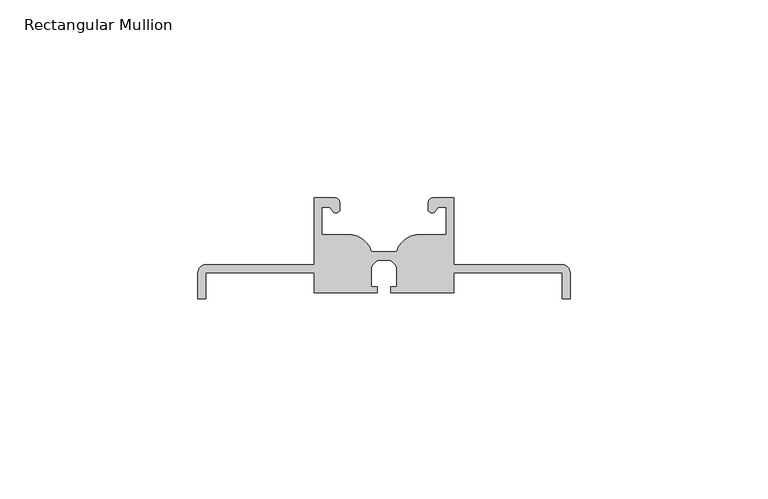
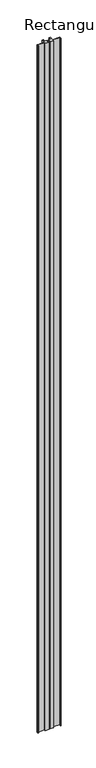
"""IFC4 building model written with IfcOpenShell, lengths in millimetres: member geometry, Rectangular Mullion : LD.0240 - right_renson."""

from ifc_helpers import new_model, si_unit, point, frame, frame_2d, origin, place, context, project, spatial, polyline, circle_curve, trimmed, segment, composite_curve, outline, extrude, source, transform, mapped, element, save


def rectangular_mullion_7ff0ea34(model_context):
    return source(origin(), model_context, "Body", "SweptSolid", [
        extrude(outline(composite_curve([segment(trimmed(circle_curve(frame_2d((-141.9912581, 7.6257936)), 2.0087419), [point((-144.0, 7.6257936))], [point((-141.9912581, 9.6345355))], False, "CARTESIAN"), True, "CONTINUOUS"), segment(polyline([(-141.9912581, 9.6345355), (-114.6599764, 9.6345355), (-114.6599764, 26.5), (-109.3468461, 26.5)]), True, "CONTINUOUS"), segment(trimmed(circle_curve(frame_2d((-109.3468461, 25.3135005)), 1.1864995), [point((-109.3468461, 26.5))], [point((-108.1603466, 25.3135005))], False, "CARTESIAN"), True, "CONTINUOUS"), segment(polyline([(-108.1603466, 25.3135005), (-108.1603466, 23.3009057)]), True, "CONTINUOUS"), segment(trimmed(circle_curve(frame_2d((-109.1227149, 23.8515635)), 1.1087726), [point((-108.1603466, 23.3009057))], [point((-109.8614271, 23.0247134))], False, "CARTESIAN"), True, "CONTINUOUS"), segment(polyline([(-109.8614271, 23.0247134), (-110.7509755, 24.1232143), (-112.6734126, 24.1232143), (-112.6734126, 17.2531745), (-105.1368198, 17.2531745)]), True, "CONTINUOUS"), segment(trimmed(circle_curve(frame_2d((-106.367927, 10.8255058)), 6.5445053), [point((-105.1368198, 17.2531745))], [point((-100.1741489, 12.9391905))], False, "CARTESIAN"), True, "CONTINUOUS"), segment(polyline([(-100.1741489, 12.9391905), (-93.8258511, 12.9391905)]), True, "CONTINUOUS"), segment(trimmed(circle_curve(frame_2d((-87.632073, 10.8255058)), 6.5445053), [point((-93.8258511, 12.9391905))], [point((-88.8631802, 17.2531745))], False, "CARTESIAN"), True, "CONTINUOUS"), segment(polyline([(-88.8631802, 17.2531745), (-81.3265874, 17.2531745), (-81.3265874, 24.1232143), (-83.2490245, 24.1232143), (-84.1385729, 23.0247134)]), True, "CONTINUOUS"), segment(trimmed(circle_curve(frame_2d((-84.8772851, 23.8515635)), 1.1087726), [point((-84.1385729, 23.0247134))], [point((-85.8396534, 23.3009057))], False, "CARTESIAN"), True, "CONTINUOUS"), segment(polyline([(-85.8396534, 23.3009057), (-85.8396534, 25.3135005)]), True, "CONTINUOUS"), segment(trimmed(circle_curve(frame_2d((-84.6531539, 25.3135005)), 1.1864995), [point((-85.8396534, 25.3135005))], [point((-84.6531539, 26.5))], False, "CARTESIAN"), True, "CONTINUOUS"), segment(polyline([(-84.6531539, 26.5), (-79.3400236, 26.5), (-79.3400236, 9.6345355), (-52.0087419, 9.6345355)]), True, "CONTINUOUS"), segment(trimmed(circle_curve(frame_2d((-52.0087419, 7.6257936)), 2.0087419), [point((-52.0087419, 9.6345355))], [point((-50.0, 7.6257936))], False, "CARTESIAN"), True, "CONTINUOUS"), segment(polyline([(-50.0, 7.6257936), (-50.0, 1.0), (-52.0087419, 1.0), (-52.0087419, 7.611542), (-79.3400236, 7.611542), (-79.3400236, 2.5065082), (-95.3054808, 2.5065082), (-95.3054808, 4.0065082), (-93.8258511, 4.0065082), (-93.8258511, 9.0065082)]), True, "CONTINUOUS"), segment(trimmed(circle_curve(frame_2d((-96.9960208, 7.6048296)), 3.4662197), [point((-93.8258511, 9.0065082))], [point((-95.5943423, 10.7749993))], True, "CARTESIAN"), True, "CONTINUOUS"), segment(polyline([(-95.5943423, 10.7749993), (-98.4056577, 10.7749993)]), True, "CONTINUOUS"), segment(trimmed(circle_curve(frame_2d((-97.0039792, 7.6048296)), 3.4662197), [point((-98.4056577, 10.7749993))], [point((-100.1741489, 9.0065082))], True, "CARTESIAN"), True, "CONTINUOUS"), segment(polyline([(-100.1741489, 9.0065082), (-100.1741489, 4.0065082), (-98.6945192, 4.0065082), (-98.6945192, 2.5065082), (-114.6599764, 2.5065082), (-114.6599764, 7.611542), (-141.9912581, 7.611542), (-141.9912581, 1.0), (-144.0, 1.0), (-144.0, 7.6257936)]), True, "CONTINUOUS")], self_intersect=False)), frame((0.0, 0.0, -3000.0), z_axis=(0.0, 0.0, 1.0), x_axis=(1.0, 0.0, 0.0)), (0.0, 0.0, 1.0), 3000.0),
    ])


if __name__ == "__main__":
    model = new_model("IFC4")
    model_context = context("Model", 3, world=origin())
    ifc_project = project(units=[si_unit("LENGTHUNIT", "METRE", prefix="MILLI")], contexts=[model_context])
    site = spatial("IfcSite", under=ifc_project)
    building = spatial("IfcBuilding", under=site)
    placement = place(None, origin())
    rectangular_mullion_shape = rectangular_mullion_7ff0ea34(model_context)
    element("IfcMember", 1, ObjectType="Rectangular Mullion : LD.0240 - right_renson", at=placement, inside=building, context=model_context, shape_type="MappedRepresentation", body=[
        mapped(rectangular_mullion_shape, transform((0.0, 0.0, 0.0), x_axis=(1.0, 0.0, 0.0), y_axis=(0.0, 1.0, 0.0), z_axis=(0.0, 0.0, 1.0))),
    ])
    save(model, "model.ifc")
